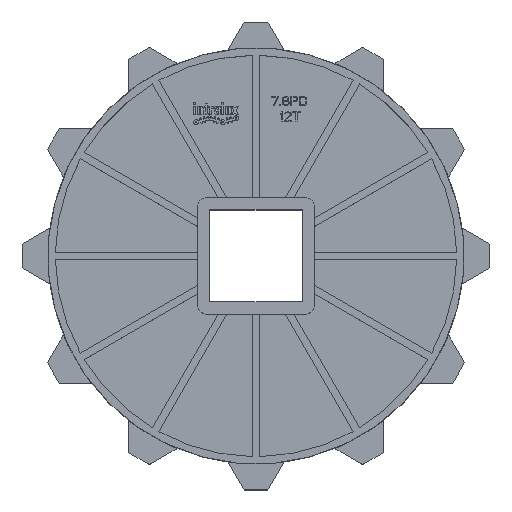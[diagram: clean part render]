
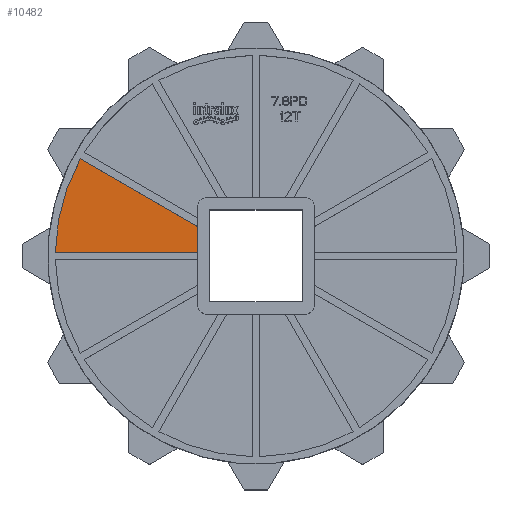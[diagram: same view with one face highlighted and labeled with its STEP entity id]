
A CAD part, top view. The second image highlights one B-rep face of the part: STEP entity #10482.
In plain terms, the highlighted planar face has unit normal (0, 0, 1).
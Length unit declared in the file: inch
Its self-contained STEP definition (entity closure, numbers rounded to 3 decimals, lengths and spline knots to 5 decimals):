
#938=DIRECTION('',(0.,-1.,0.));
#939=VECTOR('',#938,0.4192);
#940=CARTESIAN_POINT('',(-0.95,0.4792,0.09));
#941=LINE('',#940,#939);
#942=CARTESIAN_POINT('',(0.,0.,0.09));
#943=DIRECTION('',(0.,0.,-1.));
#944=DIRECTION('',(-1.,0.018,0.));
#945=AXIS2_PLACEMENT_3D('',#942,#943,#944);
#2732=DIRECTION('',(1.,0.,0.));
#2733=VECTOR('',#2732,2.32083);
#2734=CARTESIAN_POINT('',(-3.27083,0.06,0.09));
#2735=LINE('',#2734,#2733);
#2876=DIRECTION('',(-0.866,0.5,0.));
#2877=VECTOR('',#2876,2.20851);
#2878=CARTESIAN_POINT('',(-0.95,0.4792,0.09));
#2879=LINE('',#2878,#2877);
#7317=CARTESIAN_POINT('',(-0.95,0.4792,0.09));
#7318=CARTESIAN_POINT('',(-0.95,0.06,0.09));
#7319=VERTEX_POINT('',#7317);
#7320=VERTEX_POINT('',#7318);
#8535=CARTESIAN_POINT('',(-2.86262,1.58345,0.09));
#8536=VERTEX_POINT('',#8535);
#8541=CARTESIAN_POINT('',(-3.27083,0.06,0.09));
#8542=VERTEX_POINT('',#8541);
#10468=CARTESIAN_POINT('',(0.,0.,0.09));
#10469=DIRECTION('',(0.,0.,1.));
#10470=DIRECTION('',(0.866,0.5,0.));
#10471=AXIS2_PLACEMENT_3D('',#10468,#10469,#10470);
#10472=PLANE('',#10471);
#10473=ORIENTED_EDGE('',*,*,#10400,.T.);
#10475=ORIENTED_EDGE('',*,*,#10474,.F.);
#10477=ORIENTED_EDGE('',*,*,#10476,.T.);
#10479=ORIENTED_EDGE('',*,*,#10478,.F.);
#10480=EDGE_LOOP('',(#10473,#10475,#10477,#10479));
#10481=FACE_OUTER_BOUND('',#10480,.F.);
#10482=ADVANCED_FACE('',(#10481),#10472,.T.);
#946=CIRCLE('',#945,3.27138);
#10400=EDGE_CURVE('',#7319,#7320,#941,.T.);
#10474=EDGE_CURVE('',#8542,#7320,#2735,.T.);
#10476=EDGE_CURVE('',#8542,#8536,#946,.T.);
#10478=EDGE_CURVE('',#7319,#8536,#2879,.T.);
